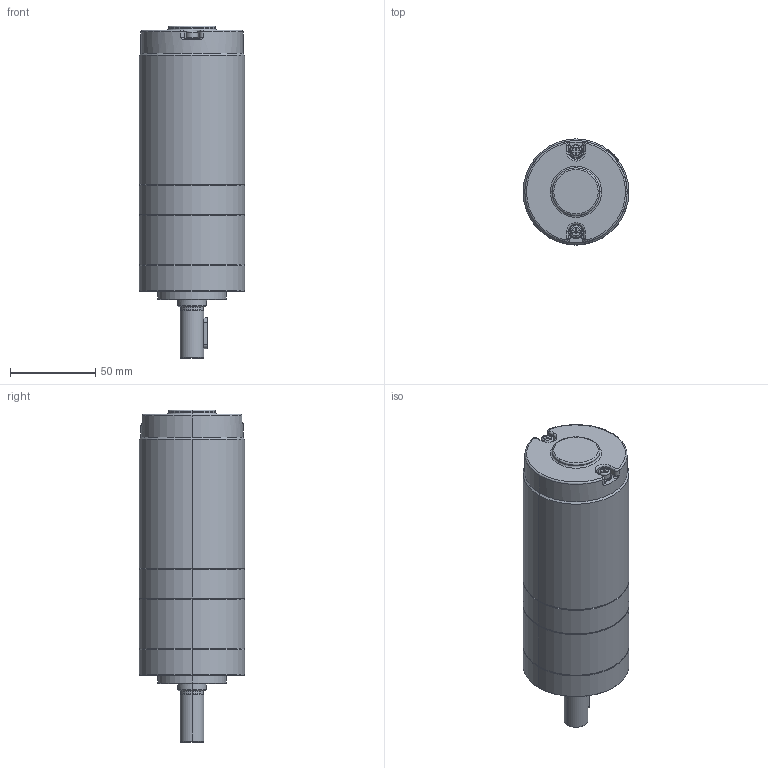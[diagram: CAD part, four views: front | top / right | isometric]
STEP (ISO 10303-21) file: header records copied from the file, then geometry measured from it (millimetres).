
FILE_DESCRIPTION (( 'STEP AP203' ), '1' );
FILE_NAME ('62ZPN衄芃珨撰熬厒40W.STEP', '2021-07-17T08:17:09', ( '' ), ( '' ), 'SwSTEP 2.0', 'SolidWorks 2021', '' );
FILE_SCHEMA (( 'CONFIG_CONTROL_DESIGN' ));
Length unit declared in the file: millimetre
Products named in the file (1): 62ZPN衄芃珨撰熬厒40W
Bounding box: 62 x 62 x 194.6 mm (x, y, z)
Volume: 470037.2 mm3; surface area: 40947.1 mm2
Topology: 1 solids, 1 shells, 271 faces, 633 edges, 379 vertices
Faces by surface type: plane 98, cylinder 95, cone 44, torus 27, bspline 7
Entity records: 8192 total; most frequent: CARTESIAN_POINT 1873, DIRECTION 1386, ORIENTED_EDGE 1242, EDGE_CURVE 621, AXIS2_PLACEMENT_3D 528, VERTEX_POINT 379, VECTOR 330, LINE 330
